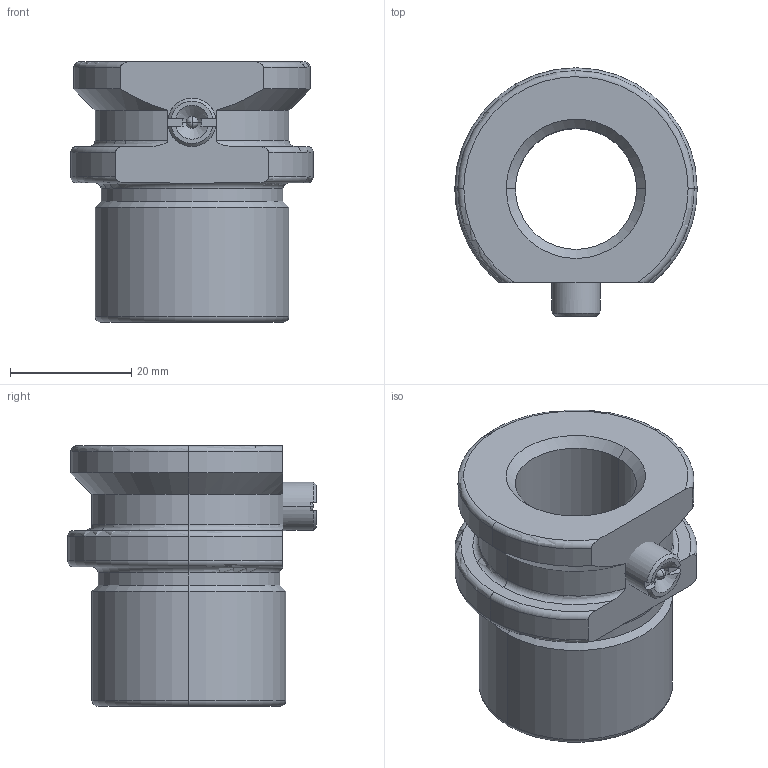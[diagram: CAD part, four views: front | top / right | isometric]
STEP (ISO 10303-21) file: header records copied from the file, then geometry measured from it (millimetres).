
FILE_DESCRIPTION(('CATIA V5 STEP Exchange'),'2;1');
FILE_NAME('C:\Users\Utente\Desktop\IO LAVORO\3D X SITO CF\X SITO\744\744-20.stp','2020-12-23T21:24:20+00:00',('none'),('none'),'CATIA Version 5 Release 20 GA (IN-10)','CATIA V5 STEP AP203','none');
FILE_SCHEMA(('CONFIG_CONTROL_DESIGN'));
Length unit declared in the file: millimetre
Products named in the file (1): 744-20
Bounding box: 40 x 41 x 43 mm (x, y, z)
Volume: 25053.7 mm3; surface area: 9641.1 mm2
Topology: 2 solids, 2 shells, 73 faces, 179 edges, 107 vertices
Faces by surface type: cylinder 19, torus 18, cone 17, plane 15, sphere 4
Entity records: 2427 total; most frequent: CARTESIAN_POINT 762, ORIENTED_EDGE 350, DIRECTION 289, EDGE_CURVE 175, AXIS2_PLACEMENT_3D 164, VERTEX_POINT 107, CIRCLE 90, EDGE_LOOP 78
